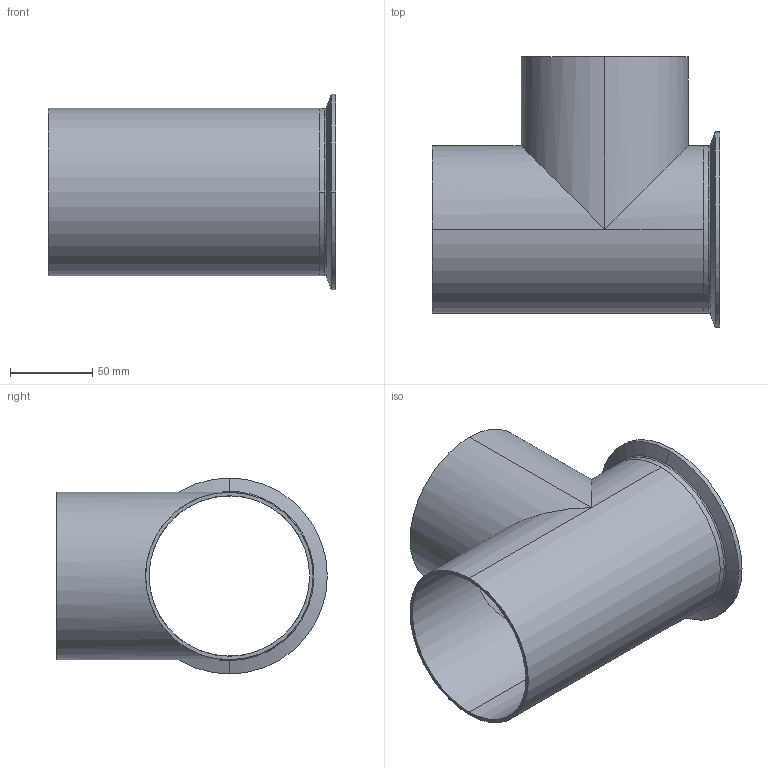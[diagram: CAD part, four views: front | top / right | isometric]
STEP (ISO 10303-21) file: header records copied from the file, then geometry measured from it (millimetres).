
FILE_DESCRIPTION (( 'STEP AP214' ), '1' );
FILE_NAME ('TE7WCSW6L4.0-...STEP', '2016-05-24T11:51:59', ( 'eran' ), ( '' ), 'SwSTEP 2.0', 'SolidWorks 2016', '' );
FILE_SCHEMA (( 'AUTOMOTIVE_DESIGN' ));
Length unit declared in the file: millimetre
Products named in the file (1): TE7WCSW6L4.0-..
Bounding box: 174.7 x 164.26 x 118.92 mm (x, y, z)
Volume: 155246.8 mm3; surface area: 143833.2 mm2
Topology: 2 solids, 2 shells, 38 faces, 94 edges, 60 vertices
Faces by surface type: cylinder 16, bspline 10, plane 6, cone 6
Entity records: 1847 total; most frequent: CARTESIAN_POINT 897, DIRECTION 202, ORIENTED_EDGE 188, EDGE_CURVE 94, AXIS2_PLACEMENT_3D 89, VERTEX_POINT 60, CIRCLE 60, EDGE_LOOP 44
